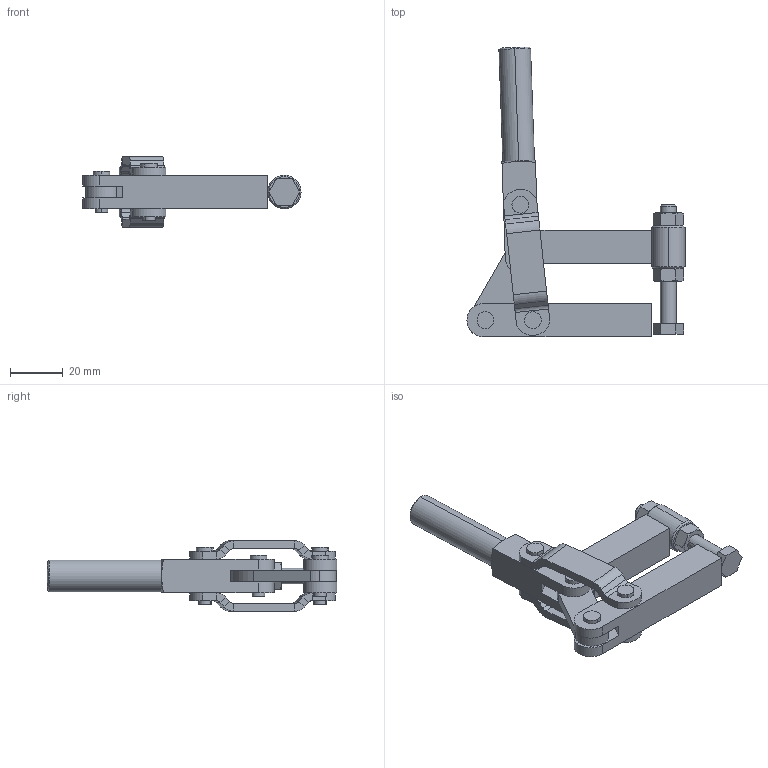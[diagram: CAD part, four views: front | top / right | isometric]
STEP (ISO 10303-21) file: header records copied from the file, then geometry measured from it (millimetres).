
FILE_DESCRIPTION (( 'STEP AP203' ), '1' );
FILE_NAME ('KF-01 MP.STEP', '2011-05-17T14:11:19', ( 'Usuario' ), ( '' ), 'SwSTEP 2.0', 'SolidWorks 2011', '' );
FILE_SCHEMA (( 'CONFIG_CONTROL_DESIGN' ));
Length unit declared in the file: millimetre
Products named in the file (11): KF-01 MP; PSB-M6; 12.50002; 11.50001; 20.20008; 06.50004; 06.50025; 08.10035; 01.20011; 03.15015_Montagem; 02.10021
Assembly tree (14 placements, depth 3):
  KF-01 MP
    03.15015_Montagem
    08.10035  x2
    02.10021
    PSB-M6
      12.50002
      20.20008
      11.50001  x2
    06.50025  x2
    06.50004  x2
    01.20011
Bounding box: 82.7 x 109.89 x 26.7 mm (x, y, z)
Volume: 37685.2 mm3; surface area: 20845.3 mm2
Topology: 13 solids, 13 shells, 264 faces, 583 edges, 346 vertices
Faces by surface type: plane 122, cylinder 88, cone 52, sphere 2
Entity records: 6250 total; most frequent: CARTESIAN_POINT 943, DIRECTION 913, ORIENTED_EDGE 782, EDGE_CURVE 391, AXIS2_PLACEMENT_3D 354, VERTEX_POINT 240, VECTOR 205, LINE 205
